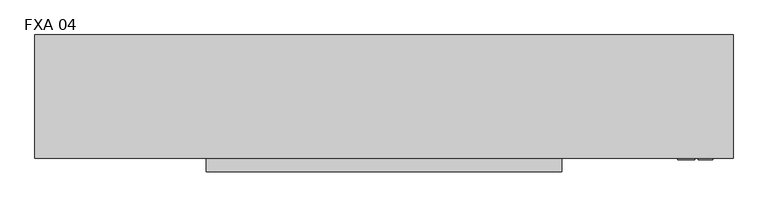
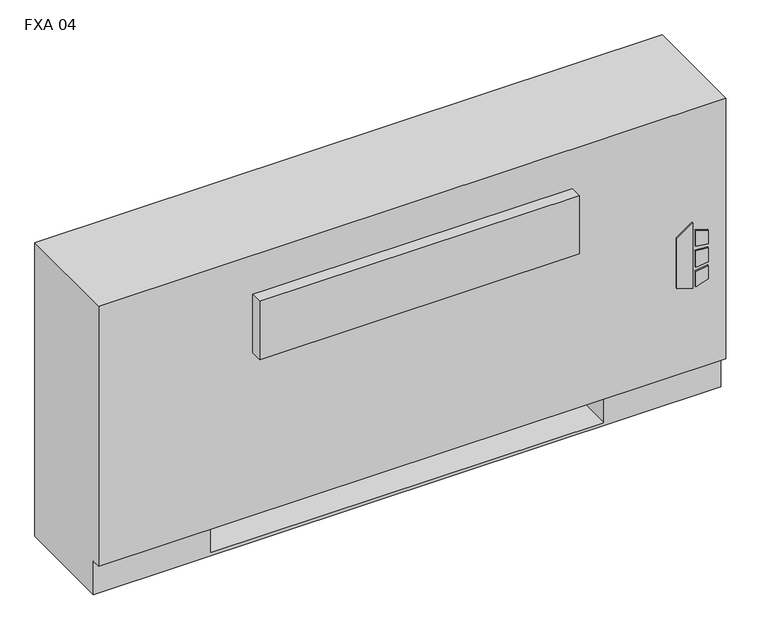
"""IFC4 building model written with IfcOpenShell, lengths in millimetres: proxy geometry, Vertical_Fan_Coil_Unit_-_FXA_-_IEC_-_4-Pipe_FS-FR_LH_2022 : FXA 04."""

from ifc_helpers import new_model, si_unit, point, frame, frame_2d, origin, place, context, project, spatial, polyline, circle_curve, trimmed, segment, composite_curve, outline, extrude, source, transform, mapped, element, save
from ifc_brep_helpers import plane_surface, revolved_surface, advanced_brep


def fxa_04_2d9da2c2(model_context):
    return source(origin(), model_context, "Body", "SolidModel", [
        extrude(outline(polyline([(263.9480703, 696.9868862), (254.0, 729.1602728), (396.1709244, 729.1602728), (373.1489183, 696.9868862), (263.9480703, 696.9868862)])), frame((0.0, 12.7, 0.0), z_axis=(0.0, 1.0, 0.0), x_axis=(0.0, 0.0, 1.0)), (0.0, 0.0, 1.0), 3.175),
        extrude(outline(polyline([(342.9473557, 735.9186058), (339.7449632, 762.0), (368.9738042, 762.0), (377.0382193, 735.9186058), (342.9473557, 735.9186058)])), frame((0.0, 12.7, 0.0), z_axis=(0.0, 1.0, 0.0), x_axis=(0.0, 0.0, 1.0)), (0.0, 0.0, 1.0), 3.175),
        extrude(outline(polyline([(291.0838288, 762.0), (287.4183279, 735.9186058), (254.0, 735.9186058), (262.6342372, 762.0), (291.0838288, 762.0)])), frame((0.0, 12.7, 0.0), z_axis=(0.0, 1.0, 0.0), x_axis=(0.0, 0.0, 1.0)), (0.0, 0.0, 1.0), 3.175),
        extrude(outline(polyline([(330.3989903, 762.0), (332.6808166, 735.9186058), (296.7432681, 735.9186058), (299.4845331, 762.0), (330.3989903, 762.0)])), frame((0.0, 12.7, 0.0), z_axis=(0.0, 1.0, 0.0), x_axis=(0.0, 0.0, 1.0)), (0.0, 0.0, 1.0), 3.175),
        extrude(outline(polyline([(679.45, 223.266), (679.45, 81.534), (558.8, 81.534), (558.8, 223.266), (679.45, 223.266)])), frame((0.0, 0.0, 327.025), z_axis=(0.0, 0.0, 1.0), x_axis=(1.0, 0.0, 0.0)), (0.0, 0.0, 1.0), 260.35),
        extrude(outline(composite_curve([segment(trimmed(circle_curve(frame_2d((-317.5, 130.175)), 9.525), [point((-327.025, 130.175))], [point((-307.975, 130.175))], False, "CARTESIAN"), True, "CONTINUOUS"), segment(trimmed(circle_curve(frame_2d((-317.5, 130.175)), 9.525), [point((-307.975, 130.175))], [point((-327.025, 130.175))], False, "CARTESIAN"), True, "CONTINUOUS")], self_intersect=False)), frame((0.0, 0.0, 101.6), z_axis=(0.0, 0.0, 1.0), x_axis=(1.0, 0.0, 0.0)), (0.0, 0.0, 1.0), 25.4),
        extrude(outline(polyline([(-419.1, 63.5), (-419.1, 196.85), (-254.0, 196.85), (-254.0, 63.5), (-419.1, 63.5)])), frame((0.0, 0.0, 127.0), z_axis=(0.0, 0.0, 1.0), x_axis=(1.0, 0.0, 0.0)), (0.0, 0.0, 1.0), 50.8),
        extrude(outline(polyline([(482.6, -9.525), (-177.8, -9.525), (-177.8, 15.875), (482.6, 15.875), (482.6, -9.525)])), frame((0.0, 0.0, 428.625), z_axis=(0.0, 0.0, 1.0), x_axis=(1.0, 0.0, 0.0)), (0.0, 0.0, 1.0), 127.0),
        extrude(outline(composite_curve([segment(trimmed(circle_curve(frame_2d((117.475, 472.44)), 7.9375), [point((117.475, 480.3775))], [point((117.475, 464.5025))], False, "CARTESIAN"), True, "CONTINUOUS"), segment(trimmed(circle_curve(frame_2d((117.475, 472.44)), 7.9375), [point((117.475, 464.5025))], [point((117.475, 480.3775))], False, "CARTESIAN"), True, "CONTINUOUS")], self_intersect=False)), frame((-304.8, 0.0, 0.0), z_axis=(1.0, 0.0, 0.0), x_axis=(0.0, 1.0, 0.0)), (0.0, 0.0, 1.0), 50.8),
        extrude(outline(composite_curve([segment(trimmed(circle_curve(frame_2d((164.0586, 445.897)), 7.9375), [point((164.0586, 453.8345))], [point((164.0586, 437.9595))], False, "CARTESIAN"), True, "CONTINUOUS"), segment(trimmed(circle_curve(frame_2d((164.0586, 445.897)), 7.9375), [point((164.0586, 437.9595))], [point((164.0586, 453.8345))], False, "CARTESIAN"), True, "CONTINUOUS")], self_intersect=False)), frame((-304.8, 0.0, 0.0), z_axis=(1.0, 0.0, 0.0), x_axis=(0.0, 1.0, 0.0)), (0.0, 0.0, 1.0), 50.8),
        extrude(outline(composite_curve([segment(trimmed(circle_curve(frame_2d((130.175, 554.99)), 7.9502), [point((130.175, 562.9402))], [point((130.175, 547.0398))], False, "CARTESIAN"), True, "CONTINUOUS"), segment(trimmed(circle_curve(frame_2d((130.175, 554.99)), 7.9502), [point((130.175, 547.0398))], [point((130.175, 562.9402))], False, "CARTESIAN"), True, "CONTINUOUS")], self_intersect=False)), frame((-304.8, 0.0, 0.0), z_axis=(1.0, 0.0, 0.0), x_axis=(0.0, 1.0, 0.0)), (0.0, 0.0, 1.0), 50.8),
        extrude(outline(composite_curve([segment(trimmed(circle_curve(frame_2d((53.975, 416.56)), 7.9502), [point((53.975, 424.5102))], [point((53.975, 408.6098))], False, "CARTESIAN"), True, "CONTINUOUS"), segment(trimmed(circle_curve(frame_2d((53.975, 416.56)), 7.9502), [point((53.975, 408.6098))], [point((53.975, 424.5102))], False, "CARTESIAN"), True, "CONTINUOUS")], self_intersect=False)), frame((-304.8, 0.0, 0.0), z_axis=(1.0, 0.0, 0.0), x_axis=(0.0, 1.0, 0.0)), (0.0, 0.0, 1.0), 50.8),
        advanced_brep(
        [(800.1, 244.475, 641.35), (-495.3, 244.475, 641.35), (-495.3, 15.875, 641.35), (800.1, 15.875, 641.35), (-495.3, 244.475, 0.0), (800.1, 244.475, 0.0), (800.1, 34.925, 0.0), (-495.3, 34.925, 0.0), (558.8, 244.475, 73.025), (787.4, 244.475, 73.025), (787.4, 244.475, 628.65), (558.8, 244.475, 628.65), (558.8, 244.475, 414.8650565), (587.375, 244.475, 414.8650565), (587.375, 244.475, 385.2349435), (558.8, 244.475, 385.2349435), (558.8, 244.475, 287.3375), (587.375, 244.475, 287.3375), (587.375, 244.475, 258.7625), (558.8, 244.475, 258.7625), (558.8, 244.475, 141.2875), (587.375, 244.475, 141.2875), (587.375, 244.475, 112.7125), (558.8, 244.475, 112.7125), (-254.0, 244.475, 628.65), (-482.6, 244.475, 628.65), (-482.6, 244.475, 73.025), (-254.0, 244.475, 73.025), (-254.0, 244.475, 112.7125), (-282.575, 244.475, 112.7125), (-282.575, 244.475, 141.2875), (-254.0, 244.475, 141.2875), (-254.0, 244.475, 258.7625), (-282.575, 244.475, 258.7625), (-282.575, 244.475, 287.3375), (-254.0, 244.475, 287.3375), (-254.0, 244.475, 385.2349435), (-282.575, 244.475, 385.2349435), (-282.575, 244.475, 414.8650565), (-254.0, 244.475, 414.8650565), (577.0626, 244.475, 127.0), (565.9374, 244.475, 127.0), (577.0626, 244.475, 400.05), (565.9374, 244.475, 400.05), (577.0626, 244.475, 273.05), (565.9374, 244.475, 273.05), (-261.1374, 244.475, 127.0), (-272.2626, 244.475, 127.0), (-261.1374, 244.475, 273.05), (-272.2626, 244.475, 273.05), (-261.1374, 244.475, 400.05), (-272.2626, 244.475, 400.05), (-495.3, 34.925, 73.025), (-495.3, 15.875, 73.025), (800.1, 15.875, 73.025), (800.1, 34.925, 73.025), (-254.0, 34.925, 73.025), (-254.0, 219.075, 73.025), (558.8, 219.075, 73.025), (558.8, 34.925, 73.025), (558.8, 34.925, 6.35), (-254.0, 34.925, 6.35), (558.8, 41.275, 628.65), (787.4, 41.275, 628.65), (787.4, 41.275, 73.025), (558.8, 41.275, 73.025), (-254.0, 41.275, 628.65), (-254.0, 41.275, 73.025), (-482.6, 41.275, 73.025), (-482.6, 41.275, 628.65), (558.8, 219.075, 73.025), (558.8, 238.125, 112.7125), (558.8, 238.125, 141.2875), (558.8, 238.125, 258.7625), (558.8, 238.125, 287.3375), (558.8, 238.125, 385.2349435), (558.8, 238.125, 414.8650565), (-254.0, 219.075, 73.025), (-254.0, 238.125, 414.8650565), (-254.0, 238.125, 385.2349435), (-254.0, 238.125, 287.3375), (-254.0, 238.125, 258.7625), (-254.0, 238.125, 141.2875), (-254.0, 238.125, 112.7125), (-254.0, 219.075, 6.35), (558.8, 219.075, 6.35), (587.375, 238.125, 112.7125), (587.375, 238.125, 141.2875), (565.9374, 238.125, 127.0), (577.0626, 238.125, 127.0), (587.375, 238.125, 258.7625), (587.375, 238.125, 287.3375), (565.9374, 238.125, 273.05), (577.0626, 238.125, 273.05), (587.375, 238.125, 385.2349435), (587.375, 238.125, 414.8650565), (565.9374, 238.125, 400.05), (577.0626, 238.125, 400.05), (-282.575, 238.125, 141.2875), (-282.575, 238.125, 112.7125), (-272.2626, 238.125, 127.0), (-261.1374, 238.125, 127.0), (-282.575, 238.125, 287.3375), (-282.575, 238.125, 258.7625), (-272.2626, 238.125, 273.05), (-261.1374, 238.125, 273.05), (-282.575, 238.125, 414.8650565), (-282.575, 238.125, 385.2349435), (-272.2626, 238.125, 400.05), (-261.1374, 238.125, 400.05)],
        [
            (0, 1),
            (1, 2),
            (2, 3),
            (3, 0),
            (4, 5),
            (5, 6),
            (6, 7),
            (7, 4),
            (0, 5),
            (4, 1),
            (8, 9),
            (9, 10),
            (10, 11),
            (11, 12),
            (12, 13),
            (13, 14),
            (14, 15),
            (15, 16),
            (16, 17),
            (17, 18),
            (18, 19),
            (19, 20),
            (20, 21),
            (21, 22),
            (22, 23),
            (23, 8),
            (24, 25),
            (25, 26),
            (26, 27),
            (27, 28),
            (28, 29),
            (29, 30),
            (30, 31),
            (31, 32),
            (32, 33),
            (33, 34),
            (34, 35),
            (35, 36),
            (36, 37),
            (37, 38),
            (38, 39),
            (39, 24),
            (40, 41, circle_curve(frame((571.5, 244.475, 127.0), z_axis=(0.0, -1.0, 0.0), x_axis=(-1.0, 0.0, 0.0)), 5.5626)),
            (41, 40, circle_curve(frame((571.5, 244.475, 127.0), z_axis=(0.0, -1.0, 0.0), x_axis=(-1.0, 0.0, 0.0)), 5.5626)),
            (42, 43, circle_curve(frame((571.5, 244.475, 400.05), z_axis=(0.0, -1.0, 0.0), x_axis=(-1.0, 0.0, 0.0)), 5.5626)),
            (43, 42, circle_curve(frame((571.5, 244.475, 400.05), z_axis=(0.0, -1.0, 0.0), x_axis=(-1.0, 0.0, 0.0)), 5.5626)),
            (44, 45, circle_curve(frame((571.5, 244.475, 273.05), z_axis=(0.0, -1.0, 0.0), x_axis=(-1.0, 0.0, 0.0)), 5.5626)),
            (45, 44, circle_curve(frame((571.5, 244.475, 273.05), z_axis=(0.0, -1.0, 0.0), x_axis=(-1.0, 0.0, 0.0)), 5.5626)),
            (46, 47, circle_curve(frame((-266.7, 244.475, 127.0), z_axis=(0.0, -1.0, 0.0), x_axis=(-1.0, 0.0, 0.0)), 5.5626)),
            (47, 46, circle_curve(frame((-266.7, 244.475, 127.0), z_axis=(0.0, -1.0, 0.0), x_axis=(-1.0, 0.0, 0.0)), 5.5626)),
            (48, 49, circle_curve(frame((-266.7, 244.475, 273.05), z_axis=(0.0, -1.0, 0.0), x_axis=(-1.0, 0.0, 0.0)), 5.5626)),
            (49, 48, circle_curve(frame((-266.7, 244.475, 273.05), z_axis=(0.0, -1.0, 0.0), x_axis=(-1.0, 0.0, 0.0)), 5.5626)),
            (50, 51, circle_curve(frame((-266.7, 244.475, 400.05), z_axis=(0.0, -1.0, 0.0), x_axis=(-1.0, 0.0, 0.0)), 5.5626)),
            (51, 50, circle_curve(frame((-266.7, 244.475, 400.05), z_axis=(0.0, -1.0, 0.0), x_axis=(-1.0, 0.0, 0.0)), 5.5626)),
            (7, 52),
            (52, 53),
            (53, 2),
            (53, 54),
            (54, 3),
            (54, 55),
            (55, 6),
            (52, 56),
            (56, 57),
            (57, 58),
            (58, 59),
            (59, 55),
            (59, 60),
            (60, 61),
            (61, 56),
            (62, 63),
            (63, 64),
            (64, 65),
            (65, 62),
            (66, 67),
            (67, 68),
            (68, 69),
            (69, 66),
            (65, 70),
            (70, 8),
            (23, 71),
            (71, 72),
            (72, 20),
            (19, 73),
            (73, 74),
            (74, 16),
            (15, 75),
            (75, 76),
            (76, 12),
            (11, 62),
            (64, 9),
            (63, 10),
            (69, 25),
            (24, 66),
            (68, 26),
            (67, 77),
            (77, 27),
            (39, 78),
            (78, 79),
            (79, 36),
            (35, 80),
            (80, 81),
            (81, 32),
            (31, 82),
            (82, 83),
            (83, 28),
            (57, 84),
            (84, 85),
            (85, 58),
            (85, 60),
            (84, 61),
            (71, 86),
            (86, 87),
            (87, 72),
            (88, 89, circle_curve(frame((571.5, 238.125, 127.0), z_axis=(0.0, 1.0, 0.0), x_axis=(-1.0, 0.0, 0.0)), 5.5626)),
            (89, 88, circle_curve(frame((571.5, 238.125, 127.0), z_axis=(0.0, 1.0, 0.0), x_axis=(-1.0, 0.0, 0.0)), 5.5626)),
            (73, 90),
            (90, 91),
            (91, 74),
            (92, 93, circle_curve(frame((571.5, 238.125, 273.05), z_axis=(0.0, 1.0, 0.0), x_axis=(-1.0, 0.0, 0.0)), 5.5626)),
            (93, 92, circle_curve(frame((571.5, 238.125, 273.05), z_axis=(0.0, 1.0, 0.0), x_axis=(-1.0, 0.0, 0.0)), 5.5626)),
            (75, 94),
            (94, 95),
            (95, 76),
            (96, 97, circle_curve(frame((571.5, 238.125, 400.05), z_axis=(0.0, 1.0, 0.0), x_axis=(-1.0, 0.0, 0.0)), 5.5626)),
            (97, 96, circle_curve(frame((571.5, 238.125, 400.05), z_axis=(0.0, 1.0, 0.0), x_axis=(-1.0, 0.0, 0.0)), 5.5626)),
            (98, 99),
            (99, 83),
            (82, 98),
            (100, 101, circle_curve(frame((-266.7, 238.125, 127.0), z_axis=(0.0, 1.0, 0.0), x_axis=(-1.0, 0.0, 0.0)), 5.5626)),
            (101, 100, circle_curve(frame((-266.7, 238.125, 127.0), z_axis=(0.0, 1.0, 0.0), x_axis=(-1.0, 0.0, 0.0)), 5.5626)),
            (102, 103),
            (103, 81),
            (80, 102),
            (104, 105, circle_curve(frame((-266.7, 238.125, 273.05), z_axis=(0.0, 1.0, 0.0), x_axis=(-1.0, 0.0, 0.0)), 5.5626)),
            (105, 104, circle_curve(frame((-266.7, 238.125, 273.05), z_axis=(0.0, 1.0, 0.0), x_axis=(-1.0, 0.0, 0.0)), 5.5626)),
            (106, 107),
            (107, 79),
            (78, 106),
            (108, 109, circle_curve(frame((-266.7, 238.125, 400.05), z_axis=(0.0, 1.0, 0.0), x_axis=(-1.0, 0.0, 0.0)), 5.5626)),
            (109, 108, circle_curve(frame((-266.7, 238.125, 400.05), z_axis=(0.0, 1.0, 0.0), x_axis=(-1.0, 0.0, 0.0)), 5.5626)),
            (87, 21),
            (86, 22),
            (91, 17),
            (90, 18),
            (95, 13),
            (94, 14),
            (30, 98),
            (99, 29),
            (34, 102),
            (103, 33),
            (38, 106),
            (107, 37),
            (88, 41),
            (40, 89),
            (96, 43),
            (42, 97),
            (92, 45),
            (44, 93),
            (100, 47),
            (46, 101),
            (104, 49),
            (48, 105),
            (108, 51),
            (50, 109),
        ],
        [
            plane_surface(frame((-495.3, 244.475, 641.35), z_axis=(0.0, 0.0, 1.0), x_axis=(-1.0, 0.0, 0.0))),
            plane_surface(frame((-495.3, 244.475, 0.0), z_axis=(0.0, 0.0, -1.0), x_axis=(1.0, 0.0, 0.0))),
            plane_surface(frame((800.1, 244.475, 641.35), z_axis=(0.0, 1.0, 0.0), x_axis=(0.0, 0.0, -1.0))),
            plane_surface(frame((-495.3, 244.475, 641.35), z_axis=(-1.0, 0.0, 0.0), x_axis=(0.0, 0.0, -1.0))),
            plane_surface(frame((-495.3, 15.875, 641.35), z_axis=(0.0, -1.0, 0.0), x_axis=(0.0, 0.0, -1.0))),
            plane_surface(frame((800.1, 15.875, 641.35), z_axis=(1.0, 0.0, 0.0), x_axis=(0.0, 0.0, -1.0))),
            plane_surface(frame((-495.3, 15.875, 73.025), z_axis=(0.0, 0.0, -1.0), x_axis=(1.0, 0.0, 0.0))),
            plane_surface(frame((-495.3, 34.925, 73.025), z_axis=(0.0, -1.0, 0.0), x_axis=(1.0, 0.0, 0.0))),
            plane_surface(frame((558.8, 41.275, 628.65), z_axis=(0.0, 1.0, 0.0), x_axis=(0.0, 0.0, -1.0))),
            plane_surface(frame((558.8, 41.275, 628.65), z_axis=(1.0, 0.0, 0.0), x_axis=(0.0, 1.0, 0.0))),
            plane_surface(frame((558.8, 41.275, 73.025), z_axis=(0.0, 0.0, 1.0), x_axis=(0.0, 1.0, 0.0))),
            plane_surface(frame((787.4, 41.275, 73.025), z_axis=(-1.0, 0.0, 0.0), x_axis=(0.0, 1.0, 0.0))),
            plane_surface(frame((787.4, 41.275, 628.65), z_axis=(0.0, 0.0, -1.0), x_axis=(0.0, 1.0, 0.0))),
            plane_surface(frame((-254.0, 41.275, 628.65), z_axis=(0.0, 0.0, -1.0), x_axis=(0.0, 1.0, 0.0))),
            plane_surface(frame((-482.6, 41.275, 628.65), z_axis=(1.0, 0.0, 0.0), x_axis=(0.0, 1.0, 0.0))),
            plane_surface(frame((-482.6, 41.275, 73.025), z_axis=(0.0, 0.0, 1.0), x_axis=(0.0, 1.0, 0.0))),
            plane_surface(frame((-254.0, 41.275, 73.025), z_axis=(-1.0, 0.0, 0.0), x_axis=(0.0, 1.0, 0.0))),
            plane_surface(frame((558.8, 219.075, 73.025), z_axis=(0.0, -1.0, 0.0), x_axis=(0.0, 0.0, -1.0))),
            plane_surface(frame((558.8, 219.075, 73.025), z_axis=(-1.0, 0.0, 0.0), x_axis=(0.0, -1.0, 0.0))),
            plane_surface(frame((558.8, 219.075, 6.35), z_axis=(0.0, 0.0, 1.0), x_axis=(0.0, -1.0, 0.0))),
            plane_surface(frame((-254.0, 219.075, 6.35), z_axis=(1.0, 0.0, 0.0), x_axis=(0.0, -1.0, 0.0))),
            plane_surface(frame((587.375, 238.125, 141.2875), z_axis=(0.0, -1.0, 0.0), x_axis=(-1.0, 0.0, 0.0))),
            plane_surface(frame((558.8, 244.475, 141.2875), z_axis=(0.0, 0.0, 1.0), x_axis=(0.0, -1.0, 0.0))),
            plane_surface(frame((587.375, 244.475, 141.2875), z_axis=(1.0, 0.0, 0.0), x_axis=(0.0, -1.0, 0.0))),
            plane_surface(frame((587.375, 244.475, 112.7125), z_axis=(0.0, 0.0, -1.0), x_axis=(0.0, -1.0, 0.0))),
            plane_surface(frame((558.8, 244.475, 287.3375), z_axis=(0.0, 0.0, 1.0), x_axis=(0.0, -1.0, 0.0))),
            plane_surface(frame((587.375, 244.475, 287.3375), z_axis=(1.0, 0.0, 0.0), x_axis=(0.0, -1.0, 0.0))),
            plane_surface(frame((587.375, 244.475, 258.7625), z_axis=(0.0, 0.0, -1.0), x_axis=(0.0, -1.0, 0.0))),
            plane_surface(frame((558.8, 244.475, 414.8650565), z_axis=(0.0, 0.0, 1.0), x_axis=(0.0, -1.0, 0.0))),
            plane_surface(frame((587.375, 244.475, 414.8650565), z_axis=(1.0, 0.0, 0.0), x_axis=(0.0, -1.0, 0.0))),
            plane_surface(frame((587.375, 244.475, 385.2349435), z_axis=(0.0, 0.0, -1.0), x_axis=(0.0, -1.0, 0.0))),
            plane_surface(frame((-282.575, 244.475, 141.2875), z_axis=(0.0, 0.0, 1.0), x_axis=(0.0, -1.0, 0.0))),
            plane_surface(frame((-254.0, 244.475, 112.7125), z_axis=(0.0, 0.0, -1.0), x_axis=(0.0, -1.0, 0.0))),
            plane_surface(frame((-282.575, 244.475, 112.7125), z_axis=(-1.0, 0.0, 0.0), x_axis=(0.0, -1.0, 0.0))),
            plane_surface(frame((-282.575, 244.475, 287.3375), z_axis=(0.0, 0.0, 1.0), x_axis=(0.0, -1.0, 0.0))),
            plane_surface(frame((-254.0, 244.475, 258.7625), z_axis=(0.0, 0.0, -1.0), x_axis=(0.0, -1.0, 0.0))),
            plane_surface(frame((-282.575, 244.475, 258.7625), z_axis=(-1.0, 0.0, 0.0), x_axis=(0.0, -1.0, 0.0))),
            plane_surface(frame((-282.575, 244.475, 414.8650565), z_axis=(0.0, 0.0, 1.0), x_axis=(0.0, -1.0, 0.0))),
            plane_surface(frame((-254.0, 244.475, 385.2349435), z_axis=(0.0, 0.0, -1.0), x_axis=(0.0, -1.0, 0.0))),
            plane_surface(frame((-282.575, 244.475, 385.2349435), z_axis=(-1.0, 0.0, 0.0), x_axis=(0.0, -1.0, 0.0))),
            revolved_surface(polyline([(565.9374, 238.125, 127.0), (565.9374, 244.475, 127.0)]), (571.5, 244.475, 127.0), (0.0, -1.0, 0.0)),
            revolved_surface(polyline([(565.9374, 238.125, 400.05), (565.9374, 244.475, 400.05)]), (571.5, 244.475, 400.05), (0.0, -1.0, 0.0)),
            revolved_surface(polyline([(565.9374, 238.125, 273.05), (565.9374, 244.475, 273.05)]), (571.5, 244.475, 273.05), (0.0, -1.0, 0.0)),
            revolved_surface(polyline([(-272.26259999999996, 238.125, 127.0), (-272.26259999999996, 244.475, 127.0)]), (-266.7, 244.475, 127.0), (0.0, -1.0, 0.0)),
            revolved_surface(polyline([(-272.26259999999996, 238.125, 273.05), (-272.26259999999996, 244.475, 273.05)]), (-266.7, 244.475, 273.05), (0.0, -1.0, 0.0)),
            revolved_surface(polyline([(-272.26259999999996, 238.125, 400.05), (-272.26259999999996, 244.475, 400.05)]), (-266.7, 244.475, 400.05), (0.0, -1.0, 0.0)),
        ],
        [
            (0, [[1, 2, 3, 4]]),
            (1, [[5, 6, 7, 8]]),
            (2, [[-1, 9, -5, 10], [11, 12, 13, 14, 15, 16, 17, 18, 19, 20, 21, 22, 23, 24, 25, 26], [27, 28, 29, 30, 31, 32, 33, 34, 35, 36, 37, 38, 39, 40, 41, 42], [43, 44], [45, 46], [47, 48], [49, 50], [51, 52], [53, 54]]),
            (3, [[-2, -10, -8, 55, 56, 57]]),
            (4, [[-3, -57, 58, 59]]),
            (5, [[-4, -59, 60, 61, -6, -9]]),
            (6, [[-56, 62, 63, 64, 65, 66, -60, -58]]),
            (7, [[-7, -61, -66, 67, 68, 69, -62, -55]]),
            (8, [[70, 71, 72, 73]]),
            (8, [[74, 75, 76, 77]]),
            (9, [[-73, 78, 79, -26, 80, 81, 82, -22, 83, 84, 85, -18, 86, 87, 88, -14, 89]]),
            (10, [[-72, 90, -11, -79, -78]]),
            (11, [[-71, 91, -12, -90]]),
            (12, [[-70, -89, -13, -91]]),
            (13, [[-77, 92, -27, 93]]),
            (14, [[-76, 94, -28, -92]]),
            (15, [[-75, 95, 96, -29, -94]]),
            (16, [[-74, -93, -42, 97, 98, 99, -38, 100, 101, 102, -34, 103, 104, 105, -30, -96, -95]]),
            (17, [[-64, 106, 107, 108]]),
            (18, [[-108, 109, -67, -65]]),
            (19, [[-107, 110, -68, -109]]),
            (20, [[-106, -63, -69, -110]]),
            (21, [[111, 112, 113, -81], [114, 115]]),
            (21, [[116, 117, 118, -84], [119, 120]]),
            (21, [[121, 122, 123, -87], [124, 125]]),
            (21, [[126, 127, -104, 128], [129, 130]]),
            (21, [[131, 132, -101, 133], [134, 135]]),
            (21, [[136, 137, -98, 138], [139, 140]]),
            (22, [[-113, 141, -23, -82]]),
            (23, [[-112, 142, -24, -141]]),
            (24, [[-111, -80, -25, -142]]),
            (25, [[-118, 143, -19, -85]]),
            (26, [[-117, 144, -20, -143]]),
            (27, [[-116, -83, -21, -144]]),
            (28, [[-123, 145, -15, -88]]),
            (29, [[-122, 146, -16, -145]]),
            (30, [[-121, -86, -17, -146]]),
            (31, [[-128, -103, -33, 147]]),
            (32, [[-127, 148, -31, -105]]),
            (33, [[-126, -147, -32, -148]]),
            (34, [[-133, -100, -37, 149]]),
            (35, [[-132, 150, -35, -102]]),
            (36, [[-131, -149, -36, -150]]),
            (37, [[-138, -97, -41, 151]]),
            (38, [[-137, 152, -39, -99]]),
            (39, [[-136, -151, -40, -152]]),
            (40, [[153, -43, 154, -114]]),
            (40, [[-153, -115, -154, -44]]),
            (41, [[155, -45, 156, -124]]),
            (41, [[-155, -125, -156, -46]]),
            (42, [[157, -47, 158, -119]]),
            (42, [[-157, -120, -158, -48]]),
            (43, [[159, -49, 160, -129]]),
            (43, [[-159, -130, -160, -50]]),
            (44, [[161, -51, 162, -134]]),
            (44, [[-161, -135, -162, -52]]),
            (45, [[163, -53, 164, -139]]),
            (45, [[-163, -140, -164, -54]]),
        ],
    ),
    ])


if __name__ == "__main__":
    model = new_model("IFC4")
    model_context = context("Model", 3, world=origin())
    ifc_project = project(units=[si_unit("LENGTHUNIT", "METRE", prefix="MILLI")], contexts=[model_context])
    site = spatial("IfcSite", under=ifc_project)
    building = spatial("IfcBuilding", under=site)
    placement = place(None, origin())
    fxa_04_shape = fxa_04_2d9da2c2(model_context)
    element("IfcBuildingElementProxy", 1, Name="Vertical_Fan_Coil_Unit_-_FXA_-_IEC_-_4-Pipe_FS-FR_LH_2022 : FXA 04", ObjectType="Vertical_Fan_Coil_Unit_-_FXA_-_IEC_-_4-Pipe_FS-FR_LH_2022 : FXA 04", at=placement, inside=building, context=model_context, shape_type="MappedRepresentation", body=[
        mapped(fxa_04_shape, transform((0.0, 0.0, 0.0), x_axis=(1.0, 0.0, 0.0), y_axis=(0.0, 1.0, 0.0), z_axis=(0.0, 0.0, 1.0))),
    ])
    save(model, "model.ifc")
